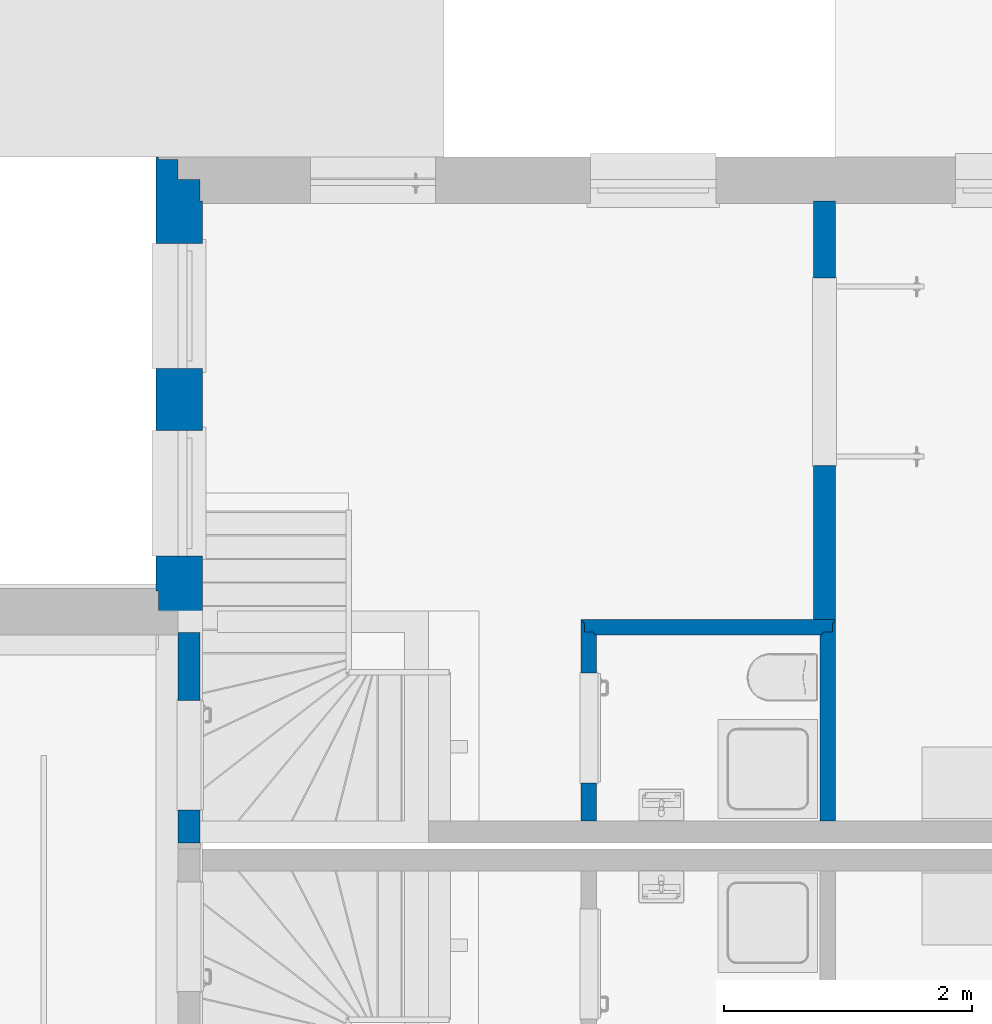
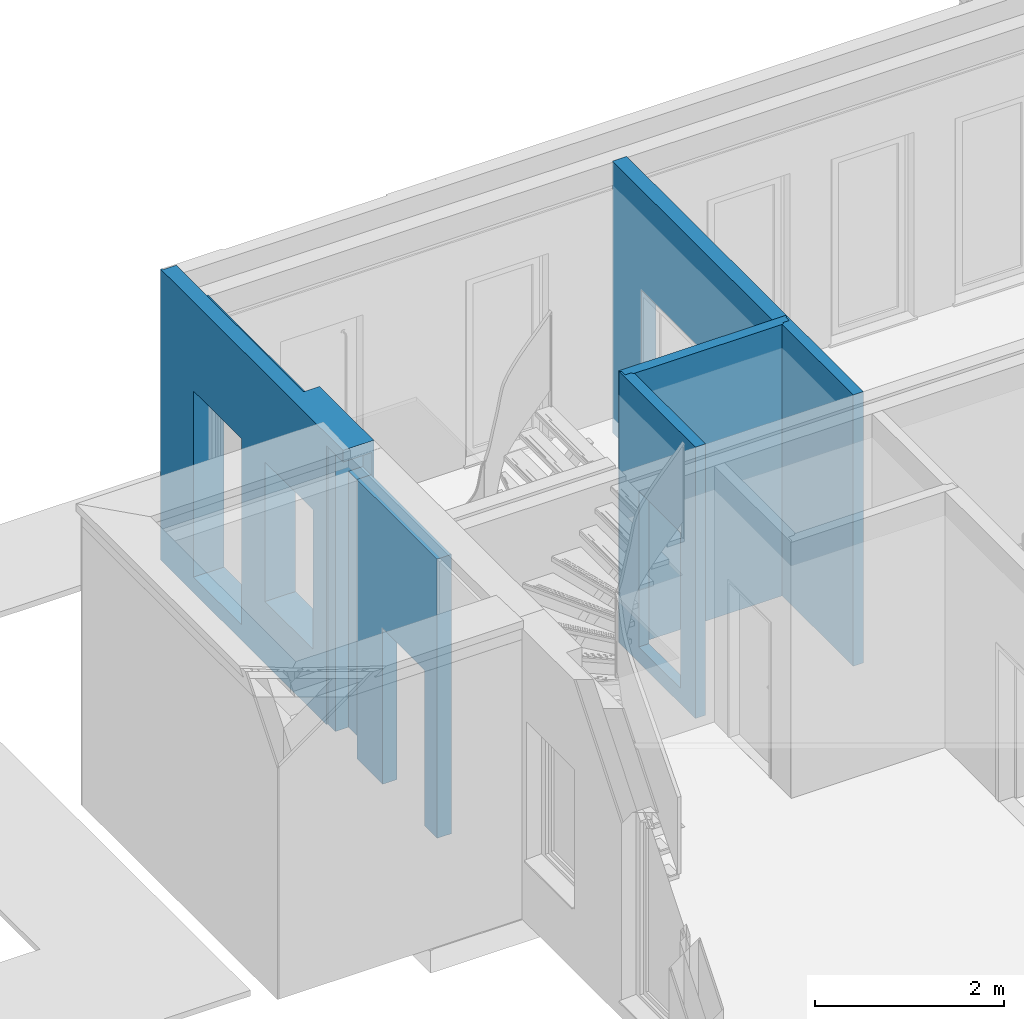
# One storey, part 8 of 28: 6 walls.
"""IFC4 building model written with IfcOpenShell, lengths in metres."""

from ifc_helpers import new_model, entity, si_unit, converted_unit, derived_unit, direction, frame, origin_with_axes, place, context, subcontext, project, spatial, triangles, material, constituent, constituent_set, type_object, element, save


model = new_model("IFC4")

# Units and contexts
model_context = context("Model", 3, precision=1e-05, world=origin_with_axes(), true_north=direction((-0.526213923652, 0.850352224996)))
body_context = subcontext(model_context, "Body", "Model", "MODEL_VIEW")
ifc_project = project(units=[si_unit("LENGTHUNIT", "METRE"), si_unit("AREAUNIT", "SQUARE_METRE"), si_unit("VOLUMEUNIT", "CUBIC_METRE"), converted_unit("PLANEANGLEUNIT", "DEGREE", entity("IfcPlaneAngleMeasure", 0.0174532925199), si_unit("PLANEANGLEUNIT", "RADIAN"), dimensions=[0, 0, 0, 0, 0, 0, 0]), si_unit("SOLIDANGLEUNIT", "STERADIAN"), converted_unit("TIMEUNIT", "Year", entity("IfcTimeMeasure", 31556926.0), si_unit("TIMEUNIT", "SECOND"), dimensions=[0, 0, 1, 0, 0, 0, 0]), si_unit("MASSUNIT", "GRAM", prefix="KILO"), si_unit("THERMODYNAMICTEMPERATUREUNIT", "DEGREE_CELSIUS"), si_unit("LUMINOUSINTENSITYUNIT", "LUMEN"), si_unit("ENERGYUNIT", "JOULE", prefix="MEGA"), derived_unit("THERMALCONDUCTANCEUNIT", [(si_unit("POWERUNIT", "WATT"), 1), (si_unit("LENGTHUNIT", "METRE"), -1), (si_unit("THERMODYNAMICTEMPERATUREUNIT", "KELVIN"), -1)]), derived_unit("SPECIFICHEATCAPACITYUNIT", [(si_unit("ENERGYUNIT", "JOULE"), 1), (si_unit("MASSUNIT", "GRAM", prefix="KILO"), -1), (si_unit("THERMODYNAMICTEMPERATUREUNIT", "KELVIN"), -1)]), derived_unit("MASSDENSITYUNIT", [(si_unit("MASSUNIT", "GRAM", prefix="KILO"), 1), (si_unit("VOLUMEUNIT", "CUBIC_METRE"), -1)])], contexts=[model_context])

# Site, building, storey, space
site_placement = place(None, origin_with_axes())
site = spatial("IfcSite", under=ifc_project, at=site_placement, Name="Gelände", CompositionType="ELEMENT")
building_placement = place(site_placement, origin_with_axes())
building = spatial("IfcBuilding", under=site, at=building_placement, Name="Haus vom Nikolaus", CompositionType="ELEMENT")
storey_placement = place(building_placement, origin_with_axes())
storey = spatial("IfcBuildingStorey", under=building, at=storey_placement, Name="EG", CompositionType="ELEMENT", Elevation=0.0)
space_placement = place(storey_placement, frame((-3.09538684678, 5.36483190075, 0.0), z_axis=(0.0, 0.0, 1.0), x_axis=(1.0, 0.0, 0.0)))
space = spatial("IfcSpace", under=storey, at=space_placement, Name="EG", CompositionType="ELEMENT")

# Walls
ifc_material_1 = material(Name="Verputz, Zement")
ifc_constituent_1 = constituent(ifc_material_1, Name="Component 1")
ifc_material_2 = material(Name="Dämmung, weich Mineralwolle 2")
ifc_constituent_2 = constituent(ifc_material_2, Name="Component 2")
ifc_material_3 = material(Name="MW Kalksandstein")
ifc_constituent_3 = constituent(ifc_material_3, Name="Component 3")
ifc_constituent_4 = constituent(ifc_material_1, Name="Component 4")
ifc_constituent_set_1 = constituent_set(constituents=[ifc_constituent_1, ifc_constituent_2, ifc_constituent_3, ifc_constituent_4], Name="WA | 2 Schichtig KS")
wall_type_1 = type_object("IfcWallType", Name="WA | 2 Schichtig KS 375", PredefinedType="NOTDEFINED")
wall_1_placement = place(space_placement, frame((3.35538443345, 3.77500017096, 0.0), z_axis=(0.0, 0.0, 1.0), x_axis=(0.0, 1.0, 0.0)))
element("IfcWall", 1, at=wall_1_placement, inside=space, type_object=wall_type_1, material=ifc_constituent_set_1, Name="Wand-008", context=body_context, shape_type="Tessellation", body=[
    triangles([(0.355, 0.375, 0.0), (0.355, 0.375, 3.6), (0.64, 0.375, 2.6), (3.85499998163, 0.375, 0.0), (2.15, 0.375, 0.2), (0.0, 0.375, 3.75), (3.85499998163, 0.375, 3.75), (3.16, 0.375, 2.6), (3.16, 0.375, 0.2), (0.0, 0.375, 3.6), (2.15, 0.375, 2.6), (1.65, 0.375, 0.8), (0.64, 0.375, 0.8), (1.65, 0.375, 2.6), (0.355, 0.355, 3.6), (0.355, 0.355, 0.0), (0.0, 0.355, 3.6), (0.0, 0.355, 3.75), (3.85499998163, 0.355, 3.75), (3.85499998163, 0.355, 0.0), (3.16, 0.355, 2.6), (3.16, 0.355, 0.2), (2.15, 0.355, 2.6), (2.15, 0.355, 0.2), (0.64, 0.355, 0.8), (1.65, 0.355, 0.8), (1.65, 0.355, 2.6), (0.64, 0.355, 2.6)], [[1, 2, 3], [4, 1, 5], [6, 7, 2], [8, 4, 9], [6, 2, 10], [7, 11, 2], [4, 8, 7], [12, 1, 13], [11, 7, 8], [11, 5, 12], [4, 5, 9], [12, 14, 11], [1, 12, 5], [3, 2, 14], [11, 14, 2], [1, 3, 13], [1, 15, 2], [1, 16, 15], [10, 15, 17], [10, 2, 15], [10, 18, 6], [18, 10, 17], [7, 18, 19], [18, 7, 6], [4, 19, 20], [4, 7, 19], [20, 1, 4], [20, 16, 1], [9, 21, 8], [9, 22, 21], [8, 23, 11], [8, 21, 23], [11, 24, 5], [11, 23, 24], [5, 22, 9], [5, 24, 22], [12, 25, 26], [12, 13, 25], [14, 26, 27], [14, 12, 26], [3, 27, 28], [3, 14, 27], [13, 28, 25], [13, 3, 28], [17, 15, 18], [21, 22, 20], [16, 20, 24], [26, 16, 24], [19, 18, 15], [15, 16, 25], [21, 19, 23], [15, 23, 19], [24, 23, 26], [19, 21, 20], [24, 20, 22], [26, 23, 27], [15, 25, 28], [27, 23, 15], [27, 15, 28], [16, 26, 25]], closed=True),
    triangles([(0.195, 0.355, 0.0), (0.195, 0.355, 3.6), (0.64, 0.355, 2.6), (3.16, 0.355, 2.6), (3.83499998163, 0.355, 0.0), (3.16, 0.355, 0.2), (0.0, 0.355, 3.75), (3.83499998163, 0.355, 3.75), (0.0, 0.355, 3.6), (2.15, 0.355, 2.6), (2.15, 0.355, 0.2), (1.65, 0.355, 0.8), (0.64, 0.355, 0.8), (1.65, 0.355, 2.6), (0.0, 0.195, 3.6), (0.195, 0.195, 3.6), (0.0, 0.195, 3.75), (3.83499998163, 0.195, 3.75), (3.83499998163, 0.195, 0.0), (0.195, 0.195, 0.0), (3.16, 0.195, 2.6), (3.16, 0.195, 0.2), (2.15, 0.195, 2.6), (2.15, 0.195, 0.2), (0.64, 0.195, 0.8), (1.65, 0.195, 0.8), (1.65, 0.195, 2.6), (0.64, 0.195, 2.6)], [[1, 2, 3], [4, 5, 6], [7, 8, 2], [7, 2, 9], [10, 11, 12], [5, 1, 11], [10, 8, 4], [5, 4, 8], [8, 10, 2], [5, 11, 6], [12, 1, 13], [12, 14, 10], [1, 12, 11], [3, 2, 14], [10, 14, 2], [1, 3, 13], [2, 15, 9], [2, 16, 15], [15, 7, 9], [7, 15, 17], [8, 17, 18], [8, 7, 17], [18, 5, 8], [5, 18, 19], [20, 5, 19], [20, 1, 5], [20, 2, 1], [20, 16, 2], [6, 21, 4], [6, 22, 21], [4, 23, 10], [4, 21, 23], [10, 24, 11], [10, 23, 24], [24, 6, 11], [6, 24, 22], [12, 25, 26], [12, 13, 25], [14, 26, 27], [14, 12, 26], [3, 27, 28], [3, 14, 27], [13, 28, 25], [13, 3, 28], [24, 19, 22], [16, 20, 25], [26, 20, 24], [16, 17, 15], [21, 22, 19], [17, 16, 18], [21, 18, 23], [16, 23, 18], [24, 23, 26], [18, 21, 19], [20, 19, 24], [26, 23, 27], [16, 25, 28], [27, 23, 16], [27, 16, 28], [20, 26, 25]], closed=True),
    triangles([(0.195, 0.195, 3.6), (1.14500000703, 0.195, 3.75), (1.14500000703, 0.195, 3.5), (2.15, 0.195, 2.6), (2.15, 0.195, 0.2), (1.65, 0.195, 0.8), (3.67499998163, 0.195, 0.0), (0.02, 0.195, 0.0), (3.16, 0.195, 2.6), (3.16, 0.195, 0.2), (1.65, 0.195, 2.6), (0.64, 0.195, 2.6), (0.02, 0.195, 3.3), (0.195, 0.195, 3.3), (0.0, 0.195, 3.75), (0.0, 0.195, 3.6), (3.67499998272, 0.195, 3.5), (0.64, 0.195, 0.8), (1.14500000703, 0.02, 3.5), (3.67499998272, 0.02, 3.5), (3.67499998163, 0.02, 0.0), (0.02, 0.02, 0.0), (0.02, 0.019999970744, 3.3), (0.195, 0.019999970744, 3.3), (0.195, 0.019999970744, 3.6), (0.0, 0.02, 3.6), (0.02, 0.019999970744, 3.6), (0.0, 0.02, 3.75), (1.14500000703, 0.02, 3.75), (3.16, 0.019999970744, 2.6), (3.16, 0.019999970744, 0.2), (2.15, 0.019999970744, 2.6), (2.15, 0.019999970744, 0.2), (0.64, 0.02, 0.8), (1.65, 0.02, 0.8), (1.65, 0.02, 2.6), (0.64, 0.02, 2.6)], [[1, 2, 3], [4, 5, 6], [7, 8, 5], [9, 7, 10], [11, 3, 4], [12, 13, 14], [2, 1, 15], [14, 1, 3], [15, 1, 16], [4, 17, 9], [3, 17, 4], [7, 9, 17], [7, 5, 10], [18, 5, 8], [13, 18, 8], [6, 11, 4], [18, 6, 5], [3, 12, 14], [12, 3, 11], [13, 12, 18], [19, 17, 3], [19, 20, 17], [17, 21, 7], [17, 20, 21], [21, 8, 7], [21, 22, 8], [13, 22, 23], [22, 13, 8], [23, 14, 13], [23, 24, 14], [24, 1, 14], [24, 25, 1], [26, 16, 27], [27, 1, 25], [1, 27, 16], [15, 26, 28], [15, 16, 26], [2, 28, 29], [28, 2, 15], [29, 3, 2], [3, 29, 19], [10, 30, 9], [10, 31, 30], [9, 32, 4], [9, 30, 32], [4, 33, 5], [4, 32, 33], [33, 10, 5], [10, 33, 31], [6, 34, 35], [6, 18, 34], [11, 35, 36], [11, 6, 35], [11, 37, 12], [37, 11, 36], [18, 37, 34], [18, 12, 37], [20, 19, 32], [25, 28, 27], [27, 28, 26], [33, 34, 22], [25, 24, 19], [28, 25, 29], [29, 25, 19], [34, 23, 22], [30, 31, 21], [33, 21, 31], [37, 19, 24], [30, 20, 32], [33, 32, 35], [20, 30, 21], [22, 21, 33], [35, 32, 36], [23, 37, 24], [37, 23, 34], [36, 32, 19], [36, 19, 37], [33, 35, 34]], closed=True),
    triangles([(1.14500000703, 0.02, 3.75), (0.0, 0.02, 3.6), (0.0, 0.02, 3.75), (1.14500000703, 0.02, 3.5), (1.14500000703, 0.02, 3.2), (1.14500000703, 0.02, 3.15), (3.16, 0.02, 2.6), (2.15, 0.02, 2.6), (3.50000006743, 0.02, 3.2), (3.49999998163, 0.02, 3.5), (3.49999998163, 0.02, 0.0), (3.16, 0.02, 0.2), (0.64, 0.02, 2.6), (3.50000006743, 0.02, 3.15), (0.0, 0.02, 0.0), (2.15, 0.02, 0.2), (1.65, 0.02, 0.8), (1.65, 0.02, 2.6), (0.64, 0.02, 0.8), (1.14500000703, 0.0, 3.75), (0.0, 0.0, 3.75), (1.14500000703, 0.0, 3.5), (3.49999998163, 0.0, 3.5), (3.50000006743, 0.0, 3.2), (1.14500000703, 0.0, 3.2), (1.14500000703, 0.0, 3.15), (3.50000006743, 0.0, 3.15), (3.49999998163, 0.0, 0.0), (0.0, 0.0, 0.0), (0.0, 0.0, 3.6), (3.16, 0.0, 2.6), (3.16, 0.0, 0.2), (2.15, 0.0, 2.6), (2.15, 0.0, 0.2), (0.64, 0.0, 0.8), (1.65, 0.0, 0.8), (1.65, 0.0, 2.6), (0.64, 0.0, 2.6)], [[1, 2, 3], [2, 4, 5], [2, 1, 4], [6, 7, 8], [9, 4, 10], [7, 11, 12], [13, 5, 6], [6, 14, 7], [11, 15, 16], [5, 13, 2], [9, 5, 4], [11, 7, 14], [8, 16, 17], [6, 8, 18], [11, 16, 12], [19, 16, 15], [13, 15, 2], [17, 18, 8], [19, 17, 16], [18, 13, 6], [15, 13, 19], [20, 3, 21], [20, 1, 3], [1, 22, 4], [1, 20, 22], [22, 10, 4], [22, 23, 10], [24, 10, 23], [24, 9, 10], [9, 25, 5], [9, 24, 25], [25, 6, 5], [25, 26, 6], [26, 14, 6], [26, 27, 14], [14, 28, 11], [14, 27, 28], [28, 15, 11], [28, 29, 15], [29, 2, 15], [29, 30, 2], [2, 21, 3], [2, 30, 21], [12, 31, 7], [12, 32, 31], [7, 33, 8], [7, 31, 33], [8, 34, 16], [8, 33, 34], [16, 32, 12], [16, 34, 32], [17, 35, 36], [17, 19, 35], [18, 36, 37], [18, 17, 36], [13, 37, 38], [13, 18, 37], [19, 38, 35], [19, 13, 38], [27, 33, 31], [38, 29, 35], [30, 20, 21], [29, 28, 34], [27, 26, 37], [25, 24, 22], [23, 22, 24], [31, 32, 28], [38, 25, 30], [22, 20, 30], [25, 22, 30], [34, 35, 29], [34, 33, 36], [27, 31, 28], [34, 28, 32], [36, 33, 37], [27, 37, 33], [29, 38, 30], [37, 26, 38], [25, 38, 26], [34, 36, 35]], closed=True),
])
ifc_constituent_5 = constituent(ifc_material_3, Name="Component 1")
ifc_constituent_set_2 = constituent_set(constituents=[ifc_constituent_5], Name="WI | MW_tr")
wall_type_2 = type_object("IfcWallType", Name="WI | MW_tr 175", PredefinedType="NOTDEFINED")
wall_2_placement = place(space_placement, frame((3.33538446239, 3.79500016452, -0.5), z_axis=(0.0, 0.0, 1.0), x_axis=(-3.68047035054e-08, -1.0, 0.0)))
element("IfcWall", 2, at=wall_2_placement, inside=space, type_object=wall_type_2, material=ifc_constituent_set_2, Name="Wand-003", context=body_context, shape_type="Tessellation", body=[
    triangles([(1.43000003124, 5.28950755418e-08, 0.2), (1.43000003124, 5.29412904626e-08, 2.2098), (1.69499995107, 6.23839706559e-08, 0.5), (0.545000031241, 2.03691279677e-08, 2.2098), (1.69499995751, 6.2383970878e-08, 3.8), (-6.44082298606e-09, 0.0, 3.8), (1.19330536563e-08, 0.0, 0.5), (0.545000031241, 2.01593127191e-08, 0.2), (1.19330536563e-08, 0.0, 0.2), (1.67999999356, 6.21424647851e-08, 0.2), (1.69499995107, 6.26945337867e-08, 0.2), (1.43000003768, -0.174999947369, 2.2098), (1.43000003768, -0.174999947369, 0.2), (0.545000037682, -0.174999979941, 2.2098), (0.545000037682, -0.174999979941, 0.2), (1.83738766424e-08, -0.175, 0.2), (1.83738766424e-08, -0.175, 0.5), (0.0, -0.175, 3.8), (1.69499996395, -0.174999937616, 3.8), (1.69499995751, -0.174999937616, 0.5), (1.69499995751, -0.174999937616, 0.2)], [[1, 2, 3], [4, 5, 2], [5, 3, 2], [6, 4, 7], [5, 4, 6], [7, 8, 9], [8, 7, 4], [10, 1, 3], [11, 10, 3], [12, 1, 13], [1, 12, 2], [12, 4, 2], [12, 14, 4], [14, 8, 4], [14, 15, 8], [9, 15, 16], [15, 9, 8], [17, 9, 16], [17, 7, 9], [18, 7, 17], [7, 18, 6], [6, 19, 5], [6, 18, 19], [20, 5, 19], [20, 3, 5], [3, 21, 11], [3, 20, 21], [21, 10, 11], [10, 13, 1], [10, 21, 13], [14, 19, 18], [20, 19, 12], [20, 13, 21], [15, 14, 17], [12, 13, 20], [15, 17, 16], [19, 14, 12], [17, 14, 18]], closed=True),
])
ifc_constituent_6 = constituent(ifc_material_3, Name="Component 1")
ifc_constituent_set_3 = constituent_set(constituents=[ifc_constituent_6], Name="WI | MW_tr")
wall_3_placement = place(space_placement, frame((8.46038446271, 7.25500015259, 0.0), z_axis=(0.0, 0.0, 1.0), x_axis=(0.0, -1.0, 0.0)))
element("IfcWall", 3, at=wall_3_placement, inside=space, type_object=wall_type_2, material=ifc_constituent_set_3, Name="Wand-006", context=body_context, shape_type="Tessellation", body=[
    triangles([(-0.02, -0.175, 0.0), (3.35499998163, -0.175, 0.0), (2.1099999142, -0.175, 0.2), (0.599999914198, -0.175, 0.2), (2.1099999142, -0.175, 2.21), (3.35499998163, -0.175, 3.5), (-0.02, -0.175, 3.5), (0.599999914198, -0.175, 2.21), (3.35499998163, 0.0, 3.5), (-0.02, 0.0, 3.5), (-0.02, 0.0, 0.0), (3.35499998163, 0.0, 0.0), (2.1099999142, 0.0, 0.2), (0.599999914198, 0.0, 0.2), (0.599999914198, 0.0, 2.21), (2.1099999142, 0.0, 2.21)], [[1, 2, 3], [4, 1, 3], [5, 2, 6], [5, 7, 8], [1, 8, 7], [8, 1, 4], [7, 5, 6], [2, 5, 3], [7, 9, 10], [7, 6, 9], [11, 7, 10], [11, 1, 7], [2, 11, 12], [2, 1, 11], [12, 6, 2], [6, 12, 9], [4, 13, 14], [4, 3, 13], [8, 14, 15], [8, 4, 14], [8, 16, 5], [16, 8, 15], [3, 16, 13], [3, 5, 16], [12, 11, 13], [16, 12, 13], [15, 10, 16], [12, 16, 9], [14, 11, 15], [9, 16, 10], [10, 15, 11], [11, 14, 13]], closed=True),
])
ifc_material_4 = material(Name="Gipskarton")
ifc_constituent_7 = constituent(ifc_material_4, Name="Component 1")
ifc_constituent_8 = constituent(ifc_material_4, Name="Component 2")
ifc_material_5 = material(Name="Dämmung, weich Glaswolle")
ifc_constituent_9 = constituent(ifc_material_5, Name="Component 3")
ifc_constituent_10 = constituent(ifc_material_4, Name="Component 4")
ifc_constituent_11 = constituent(ifc_material_4, Name="Component 5")
ifc_constituent_set_4 = constituent_set(constituents=[ifc_constituent_7, ifc_constituent_8, ifc_constituent_9, ifc_constituent_10, ifc_constituent_11], Name="WI | GK 12 2-lagig")
wall_type_3 = type_object("IfcWallType", Name="WI | GK 12 2-lagig 125", PredefinedType="NOTDEFINED")
wall_4_placement = place(space_placement, frame((6.41038446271, 3.77500017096, 0.0), z_axis=(0.0, 0.0, 1.0), x_axis=(0.0, -1.0, 0.0)))
element("IfcWall", 4, at=wall_4_placement, inside=space, type_object=wall_type_3, material=ifc_constituent_set_4, Name="Wand-013", context=body_context, shape_type="Tessellation", body=[
    triangles([(1.49999996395, 0.1125, 0.0), (1.49999996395, 0.1125, 3.5), (1.19105333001, 0.1125, 2.21), (0.0, 0.1125, 3.5), (0.306053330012, 0.1125, 2.21), (0.306053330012, 0.1125, 0.2), (0.0, 0.1125, 0.0), (1.19105333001, 0.1125, 0.2), (0.0, 0.125, 3.5), (0.0, 0.125, 0.0), (1.49999996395, 0.125, 0.0), (1.49999996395, 0.125, 3.5), (1.19105333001, 0.125, 0.2), (0.306053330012, 0.125, 0.2), (0.306053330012, 0.125, 2.21), (1.19105333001, 0.125, 2.21)], [[1, 2, 3], [3, 4, 5], [6, 7, 8], [1, 8, 7], [7, 5, 4], [5, 7, 6], [4, 3, 2], [1, 3, 8], [7, 9, 10], [7, 4, 9], [10, 1, 7], [10, 11, 1], [11, 2, 1], [11, 12, 2], [2, 9, 4], [2, 12, 9], [6, 13, 14], [6, 8, 13], [5, 14, 15], [5, 6, 14], [3, 15, 16], [3, 5, 15], [8, 16, 13], [8, 3, 16], [10, 9, 15], [16, 11, 13], [10, 13, 11], [16, 9, 12], [11, 16, 12], [16, 15, 9], [14, 13, 10], [15, 14, 10]], closed=True),
    triangles([(1.49999996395, 0.1, 0.0), (1.49999996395, 0.1, 3.5), (1.19105333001, 0.1, 2.21), (-0.0125, 0.1, 0.0), (0.306053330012, 0.1, 2.21), (-0.0125, 0.1, 3.5), (0.306053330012, 0.1, 0.2), (1.19105333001, 0.1, 0.2), (-0.0125, 0.1125, 3.5), (-0.0125, 0.1125, 0.0), (1.49999996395, 0.1125, 0.0), (1.49999996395, 0.1125, 3.5), (1.19105333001, 0.1125, 0.2), (0.306053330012, 0.1125, 0.2), (0.306053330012, 0.1125, 2.21), (1.19105333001, 0.1125, 2.21)], [[1, 2, 3], [4, 5, 6], [1, 7, 4], [7, 1, 8], [3, 2, 5], [5, 4, 7], [6, 5, 2], [1, 3, 8], [4, 9, 10], [4, 6, 9], [10, 1, 4], [10, 11, 1], [11, 2, 1], [11, 12, 2], [2, 9, 6], [2, 12, 9], [7, 13, 14], [7, 8, 13], [5, 14, 15], [5, 7, 14], [3, 15, 16], [3, 5, 15], [8, 16, 13], [8, 3, 16], [10, 9, 15], [16, 11, 13], [14, 11, 10], [15, 12, 16], [11, 16, 12], [12, 15, 9], [11, 14, 13], [15, 14, 10]], closed=True),
    triangles([(1.49999996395, 0.025, 0.0), (1.49999996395, 0.025, 3.5), (1.19105333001, 0.025, 2.21), (-0.025, 0.025, 0.0), (0.306053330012, 0.025, 2.21), (-0.025, 0.025, 3.5), (0.306053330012, 0.025, 0.2), (1.19105333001, 0.025, 0.2), (-0.025, 0.1, 3.5), (-0.025, 0.1, 0.0), (1.49999996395, 0.1, 0.0), (1.49999996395, 0.1, 3.5), (1.19105333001, 0.1, 0.2), (0.306053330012, 0.1, 0.2), (0.306053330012, 0.1, 2.21), (1.19105333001, 0.1, 2.21)], [[1, 2, 3], [4, 5, 6], [1, 7, 4], [7, 1, 8], [3, 2, 5], [5, 4, 7], [6, 5, 2], [1, 3, 8], [4, 9, 10], [4, 6, 9], [11, 4, 10], [4, 11, 1], [11, 2, 1], [11, 12, 2], [12, 6, 2], [6, 12, 9], [7, 13, 14], [7, 8, 13], [5, 14, 15], [5, 7, 14], [5, 16, 3], [16, 5, 15], [8, 16, 13], [8, 3, 16], [10, 9, 15], [16, 11, 13], [14, 11, 10], [15, 12, 16], [11, 16, 12], [12, 15, 9], [11, 14, 13], [15, 14, 10]], closed=True),
    triangles([(1.49999996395, 0.0125, 0.0), (1.49999996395, 0.0125, 3.5), (1.19105333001, 0.0125, 2.21), (-0.1, 0.0125, 0.0), (0.306053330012, 0.0125, 2.21), (-0.1, 0.0125, 3.5), (0.306053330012, 0.0125, 0.2), (1.19105333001, 0.0125, 0.2), (-0.1, 0.025, 3.5), (-0.1, 0.025, 0.0), (1.49999996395, 0.025, 0.0), (1.49999996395, 0.025, 3.5), (1.19105333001, 0.025, 0.2), (0.306053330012, 0.025, 0.2), (0.306053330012, 0.025, 2.21), (1.19105333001, 0.025, 2.21)], [[1, 2, 3], [4, 5, 6], [1, 7, 4], [7, 1, 8], [3, 2, 5], [5, 4, 7], [6, 5, 2], [1, 3, 8], [4, 9, 10], [4, 6, 9], [10, 1, 4], [10, 11, 1], [11, 2, 1], [11, 12, 2], [2, 9, 6], [2, 12, 9], [7, 13, 14], [7, 8, 13], [5, 14, 15], [5, 7, 14], [3, 15, 16], [3, 5, 15], [8, 16, 13], [8, 3, 16], [10, 9, 15], [16, 11, 13], [14, 11, 10], [15, 12, 16], [11, 16, 12], [12, 15, 9], [11, 14, 13], [15, 14, 10]], closed=True),
    triangles([(1.49999996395, 0.0, 0.0), (1.49999996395, 0.0, 3.5), (1.19105333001, 0.0, 2.21), (-0.1125, 0.0, 0.0), (0.306053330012, 0.0, 2.21), (-0.1125, 0.0, 3.5), (0.306053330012, 0.0, 0.2), (1.19105333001, 0.0, 0.2), (-0.1125, 0.0125, 3.5), (-0.1125, 0.0125, 0.0), (1.49999996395, 0.0125, 0.0), (1.49999996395, 0.0125, 3.5), (1.19105333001, 0.0125, 0.2), (0.306053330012, 0.0125, 0.2), (0.306053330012, 0.0125, 2.21), (1.19105333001, 0.0125, 2.21)], [[1, 2, 3], [4, 5, 6], [1, 7, 4], [7, 1, 8], [3, 2, 5], [5, 4, 7], [6, 5, 2], [1, 3, 8], [4, 9, 10], [4, 6, 9], [10, 1, 4], [10, 11, 1], [11, 2, 1], [11, 12, 2], [2, 9, 6], [2, 12, 9], [7, 13, 14], [7, 8, 13], [5, 14, 15], [5, 7, 14], [3, 15, 16], [3, 5, 15], [8, 16, 13], [8, 3, 16], [10, 9, 15], [16, 11, 13], [14, 11, 10], [15, 12, 16], [11, 16, 12], [12, 15, 9], [11, 14, 13], [15, 14, 10]], closed=True),
])
ifc_constituent_12 = constituent(ifc_material_4, Name="Component 1")
ifc_constituent_13 = constituent(ifc_material_4, Name="Component 2")
ifc_constituent_14 = constituent(ifc_material_5, Name="Component 3")
ifc_constituent_15 = constituent(ifc_material_4, Name="Component 4")
ifc_constituent_16 = constituent(ifc_material_4, Name="Component 5")
ifc_constituent_set_5 = constituent_set(constituents=[ifc_constituent_12, ifc_constituent_13, ifc_constituent_14, ifc_constituent_15, ifc_constituent_16], Name="WI | GK 12 2-lagig")
wall_5_placement = place(space_placement, frame((8.46038446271, 2.27500017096, 0.0), z_axis=(0.0, 0.0, 1.0), x_axis=(0.0, 1.0, 0.0)))
element("IfcWall", 5, at=wall_5_placement, inside=space, type_object=wall_type_3, material=ifc_constituent_set_5, Name="Wand-012", context=body_context, shape_type="Tessellation", body=[
    triangles([(1.5, 0.1125, 0.0), (1.5, 0.125, 3.5), (1.5, 0.1125, 3.5), (1.5, 0.125, 0.0), (0.0, 0.1125, 3.5), (0.0, 0.125, 3.5), (0.0, 0.1125, 0.0), (0.0, 0.125, 0.0)], [[1, 2, 3], [1, 4, 2], [2, 5, 3], [2, 6, 5], [7, 3, 5], [7, 1, 3], [7, 4, 1], [7, 8, 4], [4, 6, 2], [4, 8, 6], [8, 5, 6], [8, 7, 5]], closed=True),
    triangles([(1.5125, 0.1, 0.0), (1.5125, 0.1125, 3.5), (1.5125, 0.1, 3.5), (1.5125, 0.1125, 0.0), (0.0, 0.1, 3.5), (0.0, 0.1125, 3.5), (0.0, 0.1, 0.0), (0.0, 0.1125, 0.0)], [[1, 2, 3], [1, 4, 2], [2, 5, 3], [2, 6, 5], [7, 3, 5], [7, 1, 3], [7, 4, 1], [7, 8, 4], [4, 6, 2], [4, 8, 6], [8, 5, 6], [8, 7, 5]], closed=True),
    triangles([(1.525, 0.025, 0.0), (1.525, 0.1, 3.5), (1.525, 0.025, 3.5), (1.525, 0.1, 0.0), (0.0, 0.025, 3.5), (0.0, 0.1, 3.5), (0.0, 0.025, 0.0), (0.0, 0.1, 0.0)], [[1, 2, 3], [1, 4, 2], [2, 5, 3], [2, 6, 5], [7, 3, 5], [7, 1, 3], [7, 4, 1], [7, 8, 4], [4, 6, 2], [4, 8, 6], [8, 5, 6], [8, 7, 5]], closed=True),
    triangles([(1.6, 0.0125, 0.0), (1.6, 0.025, 3.5), (1.6, 0.0125, 3.5), (1.6, 0.025, 0.0), (0.0, 0.0125, 3.5), (0.0, 0.025, 3.5), (0.0, 0.0125, 0.0), (0.0, 0.025, 0.0)], [[1, 2, 3], [1, 4, 2], [2, 5, 3], [2, 6, 5], [7, 3, 5], [7, 1, 3], [7, 4, 1], [7, 8, 4], [4, 6, 2], [4, 8, 6], [8, 5, 6], [8, 7, 5]], closed=True),
    triangles([(1.6125, 0.0, 0.0), (1.6125, 0.0125, 3.5), (1.6125, 0.0, 3.5), (1.6125, 0.0125, 0.0), (0.0, 0.0, 3.5), (0.0, 0.0125, 3.5), (0.0, 0.0, 0.0), (0.0, 0.0125, 0.0)], [[1, 2, 3], [1, 4, 2], [2, 5, 3], [2, 6, 5], [7, 3, 5], [7, 1, 3], [7, 4, 1], [7, 8, 4], [4, 6, 2], [4, 8, 6], [8, 5, 6], [8, 7, 5]], closed=True),
])
ifc_constituent_17 = constituent(ifc_material_4, Name="Component 1")
ifc_constituent_18 = constituent(ifc_material_4, Name="Component 2")
ifc_constituent_19 = constituent(ifc_material_5, Name="Component 3")
ifc_constituent_20 = constituent(ifc_material_4, Name="Component 4")
ifc_constituent_21 = constituent(ifc_material_4, Name="Component 5")
ifc_constituent_set_6 = constituent_set(constituents=[ifc_constituent_17, ifc_constituent_18, ifc_constituent_19, ifc_constituent_20, ifc_constituent_21], Name="WI | GK 12 2-lagig")
wall_6_placement = place(space_placement, frame((8.46038446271, 3.77500017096, 0.0), z_axis=(0.0, 0.0, 1.0), x_axis=(-1.0, 0.0, 0.0)))
element("IfcWall", 6, at=wall_6_placement, inside=space, type_object=wall_type_3, material=ifc_constituent_set_6, Name="Wand-011", context=body_context, shape_type="Tessellation", body=[
    triangles([(0.1125, -0.0125, 0.0), (1.9375, -0.0125, 3.5), (0.1125, -0.0125, 3.5), (1.9375, -0.0125, 0.0), (0.1125, 0.0, 3.5), (1.9375, 0.0, 3.5), (0.1125, 0.0, 0.0), (1.9375, 0.0, 0.0)], [[1, 2, 3], [1, 4, 2], [2, 5, 3], [2, 6, 5], [7, 3, 5], [7, 1, 3], [1, 8, 4], [1, 7, 8], [4, 6, 2], [4, 8, 6], [8, 5, 6], [8, 7, 5]], closed=True),
    triangles([(0.1, -0.025, 0.0), (1.95, -0.025, 3.5), (0.1, -0.025, 3.5), (1.95, -0.025, 0.0), (0.1, -0.0125, 3.5), (1.95, -0.0125, 3.5), (0.1, -0.0125, 0.0), (1.95, -0.0125, 0.0)], [[1, 2, 3], [1, 4, 2], [2, 5, 3], [2, 6, 5], [7, 3, 5], [7, 1, 3], [1, 8, 4], [1, 7, 8], [4, 6, 2], [4, 8, 6], [8, 5, 6], [8, 7, 5]], closed=True),
    triangles([(0.025, -0.1, 0.0), (2.025, -0.1, 3.5), (0.025, -0.1, 3.5), (2.025, -0.1, 0.0), (0.025, -0.025, 3.5), (2.025, -0.025, 3.5), (0.025, -0.025, 0.0), (2.025, -0.025, 0.0)], [[1, 2, 3], [1, 4, 2], [2, 5, 3], [2, 6, 5], [7, 3, 5], [7, 1, 3], [7, 4, 1], [4, 7, 8], [4, 6, 2], [4, 8, 6], [8, 5, 6], [8, 7, 5]], closed=True),
    triangles([(0.0125, -0.1125, 0.0), (2.0375, -0.1125, 3.5), (0.0125, -0.1125, 3.5), (2.0375, -0.1125, 0.0), (0.0125, -0.1, 3.5), (2.0375, -0.1, 3.5), (0.0125, -0.1, 0.0), (2.0375, -0.1, 0.0)], [[1, 2, 3], [1, 4, 2], [2, 5, 3], [2, 6, 5], [7, 3, 5], [7, 1, 3], [1, 8, 4], [1, 7, 8], [4, 6, 2], [4, 8, 6], [8, 5, 6], [8, 7, 5]], closed=True),
    triangles([(0.0, -0.125, 0.0), (2.05, -0.125, 3.5), (0.0, -0.125, 3.5), (2.05, -0.125, 0.0), (0.0, -0.1125, 3.5), (2.05, -0.1125, 3.5), (0.0, -0.1125, 0.0), (2.05, -0.1125, 0.0)], [[1, 2, 3], [1, 4, 2], [2, 5, 3], [2, 6, 5], [7, 3, 5], [7, 1, 3], [1, 8, 4], [1, 7, 8], [4, 6, 2], [4, 8, 6], [8, 5, 6], [8, 7, 5]], closed=True),
])

save(model, "model.ifc")
